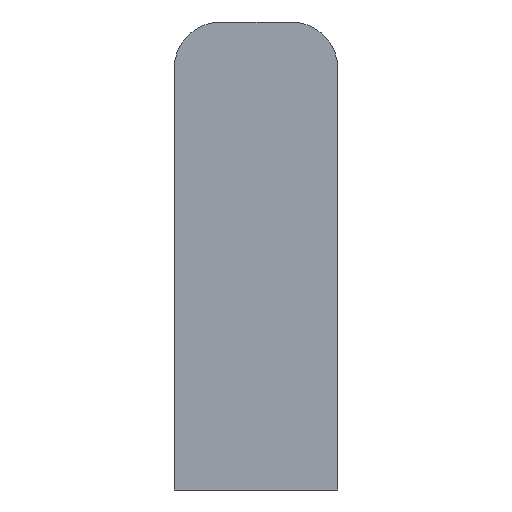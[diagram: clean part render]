
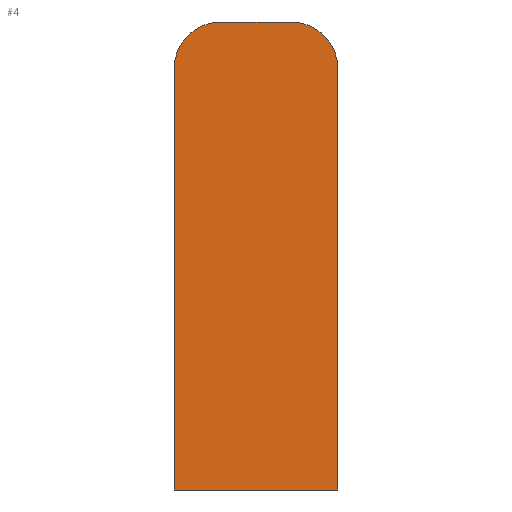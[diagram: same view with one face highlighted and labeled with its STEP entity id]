
A CAD part, front view. The second image highlights one B-rep face of the part: STEP entity #4.
In plain terms, the highlighted planar face has unit normal (0, -1, 0).
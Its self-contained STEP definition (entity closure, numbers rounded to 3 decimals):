
#4 = ADVANCED_FACE ( 'NONE', ( #114 ), #230, .F. ) ;
#58 = ORIENTED_EDGE ( 'NONE', *, *, #398, .T. ) ;
#59 = ORIENTED_EDGE ( 'NONE', *, *, #421, .T. ) ;
#79 = ORIENTED_EDGE ( 'NONE', *, *, #417, .T. ) ;
#86 = EDGE_LOOP ( 'NONE', ( #79, #59, #58, #89, #88, #94 ) ) ;
#88 = ORIENTED_EDGE ( 'NONE', *, *, #399, .T. ) ;
#89 = ORIENTED_EDGE ( 'NONE', *, *, #435, .T. ) ;
#94 = ORIENTED_EDGE ( 'NONE', *, *, #424, .T. ) ;
#113 = LINE ( 'NONE', #323, #121 ) ;
#114 = FACE_OUTER_BOUND ( 'NONE', #86, .T. ) ;
#121 = VECTOR ( 'NONE', #324, 1000. ) ;
#128 = LINE ( 'NONE', #297, #131 ) ;
#130 = LINE ( 'NONE', #295, #190 ) ;
#131 = VECTOR ( 'NONE', #299, 1000. ) ;
#139 = LINE ( 'NONE', #335, #140 ) ;
#140 = VECTOR ( 'NONE', #336, 1000. ) ;
#141 = CIRCLE ( 'NONE', #431, 3. ) ;
#150 = CIRCLE ( 'NONE', #453, 3. ) ;
#190 = VECTOR ( 'NONE', #296, 1000. ) ;
#201 = VERTEX_POINT ( 'NONE', #278 ) ;
#207 = VERTEX_POINT ( 'NONE', #276 ) ;
#208 = VERTEX_POINT ( 'NONE', #281 ) ;
#209 = VERTEX_POINT ( 'NONE', #277 ) ;
#213 = VERTEX_POINT ( 'NONE', #285 ) ;
#222 = VERTEX_POINT ( 'NONE', #294 ) ;
#230 = PLANE ( 'NONE',  #442 ) ;
#231 = CARTESIAN_POINT ( 'NONE',  ( 0., 0., -1.5 ) ) ;
#240 = DIRECTION ( 'NONE',  ( -1., 0., 0. ) ) ;
#241 = DIRECTION ( 'NONE',  ( 0., 1., 0. ) ) ;
#276 = CARTESIAN_POINT ( 'NONE',  ( -5.25, 0., 10.5 ) ) ;
#277 = CARTESIAN_POINT ( 'NONE',  ( 5.25, 0., -16.5 ) ) ;
#278 = CARTESIAN_POINT ( 'NONE',  ( 2.25, 0., 13.5 ) ) ;
#281 = CARTESIAN_POINT ( 'NONE',  ( 5.25, 0., 10.5 ) ) ;
#285 = CARTESIAN_POINT ( 'NONE',  ( -5.25, 0., -16.5 ) ) ;
#294 = CARTESIAN_POINT ( 'NONE',  ( -2.25, 0., 13.5 ) ) ;
#295 = CARTESIAN_POINT ( 'NONE',  ( 2.25, 0., 13.5 ) ) ;
#296 = DIRECTION ( 'NONE',  ( -1., 0., 0. ) ) ;
#297 = CARTESIAN_POINT ( 'NONE',  ( -5.25, 0., -16.5 ) ) ;
#299 = DIRECTION ( 'NONE',  ( 0., 0., -1. ) ) ;
#323 = CARTESIAN_POINT ( 'NONE',  ( 5.25, 0., -16.5 ) ) ;
#324 = DIRECTION ( 'NONE',  ( 0., 0., 1. ) ) ;
#328 = CARTESIAN_POINT ( 'NONE',  ( 2.25, 0., 10.5 ) ) ;
#330 = DIRECTION ( 'NONE',  ( 0., -1., 0. ) ) ;
#331 = DIRECTION ( 'NONE',  ( -1., 0., 0. ) ) ;
#335 = CARTESIAN_POINT ( 'NONE',  ( 5.25, 0., -16.5 ) ) ;
#336 = DIRECTION ( 'NONE',  ( 1., 0., 0. ) ) ;
#341 = CARTESIAN_POINT ( 'NONE',  ( -2.25, 0., 10.5 ) ) ;
#343 = DIRECTION ( 'NONE',  ( 0., -1., 0. ) ) ;
#344 = DIRECTION ( 'NONE',  ( -1., 0., 0. ) ) ;
#398 = EDGE_CURVE ( 'NONE', #201, #222, #130, .T. ) ;
#399 = EDGE_CURVE ( 'NONE', #207, #213, #128, .T. ) ;
#417 = EDGE_CURVE ( 'NONE', #209, #208, #113, .T. ) ;
#421 = EDGE_CURVE ( 'NONE', #208, #201, #141, .T. ) ;
#424 = EDGE_CURVE ( 'NONE', #213, #209, #139, .T. ) ;
#431 = AXIS2_PLACEMENT_3D ( 'NONE', #328, #330, #331 ) ;
#435 = EDGE_CURVE ( 'NONE', #222, #207, #150, .T. ) ;
#442 = AXIS2_PLACEMENT_3D ( 'NONE', #231, #241, #240 ) ;
#453 = AXIS2_PLACEMENT_3D ( 'NONE', #341, #343, #344 ) ;
